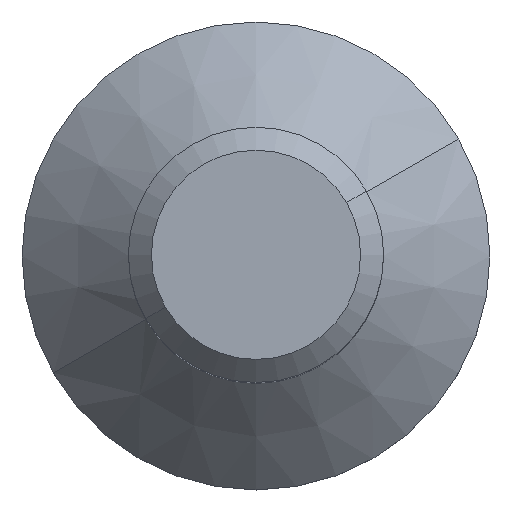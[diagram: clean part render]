
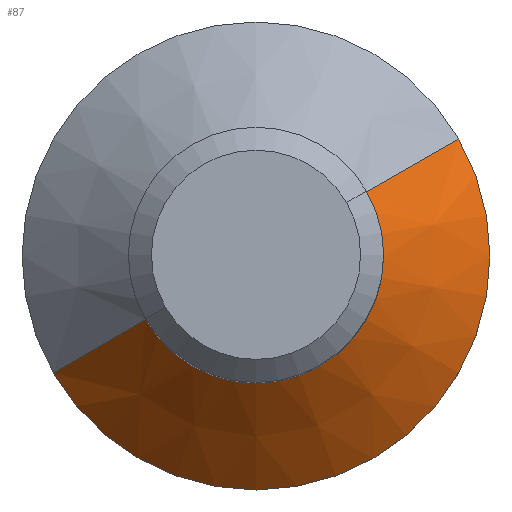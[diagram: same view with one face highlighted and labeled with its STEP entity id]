
A CAD part, top view. The second image highlights one B-rep face of the part: STEP entity #87.
In plain terms, the highlighted conical face has half-angle 45 degrees and reference radius 1.5 mm.
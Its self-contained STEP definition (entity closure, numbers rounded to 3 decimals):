
#61=CONICAL_SURFACE('',#542,1.5,0.785);
#87=ADVANCED_FACE('',(#120),#61,.T.);
#120=FACE_OUTER_BOUND('',#153,.F.);
#153=EDGE_LOOP('',(#199,#200,#201,#202));
#199=ORIENTED_EDGE('',*,*,#405,.F.);
#200=ORIENTED_EDGE('',*,*,#408,.F.);
#201=ORIENTED_EDGE('',*,*,#403,.T.);
#202=ORIENTED_EDGE('',*,*,#409,.T.);
#336=LINE('',#786,#364);
#337=LINE('',#787,#365);
#364=VECTOR('',#619,1.768);
#365=VECTOR('',#620,1.768);
#403=EDGE_CURVE('',#494,#495,#465,.T.);
#405=EDGE_CURVE('',#491,#490,#467,.T.);
#408=EDGE_CURVE('',#494,#491,#336,.T.);
#409=EDGE_CURVE('',#495,#490,#337,.T.);
#465=CIRCLE('',#531,1.5);
#467=CIRCLE('',#533,2.75);
#490=VERTEX_POINT('',#748);
#491=VERTEX_POINT('',#749);
#494=VERTEX_POINT('',#752);
#495=VERTEX_POINT('',#753);
#531=AXIS2_PLACEMENT_3D('',#781,#611,#612);
#533=AXIS2_PLACEMENT_3D('',#783,#615,#616);
#542=AXIS2_PLACEMENT_3D('',#860,#654,#653);
#611=DIRECTION('',(0.,0.,1.));
#612=DIRECTION('',(-0.866,-0.5,0.));
#615=DIRECTION('',(0.,0.,1.));
#616=DIRECTION('',(-0.866,-0.5,0.));
#619=DIRECTION('',(-0.612,-0.354,-0.707));
#620=DIRECTION('',(0.612,0.354,-0.707));
#653=DIRECTION('',(-0.866,-0.5,0.));
#654=DIRECTION('',(0.,0.,-1.));
#748=CARTESIAN_POINT('',(-160.126,-82.536,-768.335));
#749=CARTESIAN_POINT('',(-164.889,-85.286,-768.335));
#752=CARTESIAN_POINT('',(-163.807,-84.661,-767.085));
#753=CARTESIAN_POINT('',(-161.209,-83.161,-767.085));
#781=CARTESIAN_POINT('',(-162.508,-83.911,-767.085));
#783=CARTESIAN_POINT('',(-162.508,-83.911,-768.335));
#786=CARTESIAN_POINT('',(-163.807,-84.661,-767.085));
#787=CARTESIAN_POINT('',(-161.209,-83.161,-767.085));
#860=CARTESIAN_POINT('',(-162.508,-83.911,-767.085));
